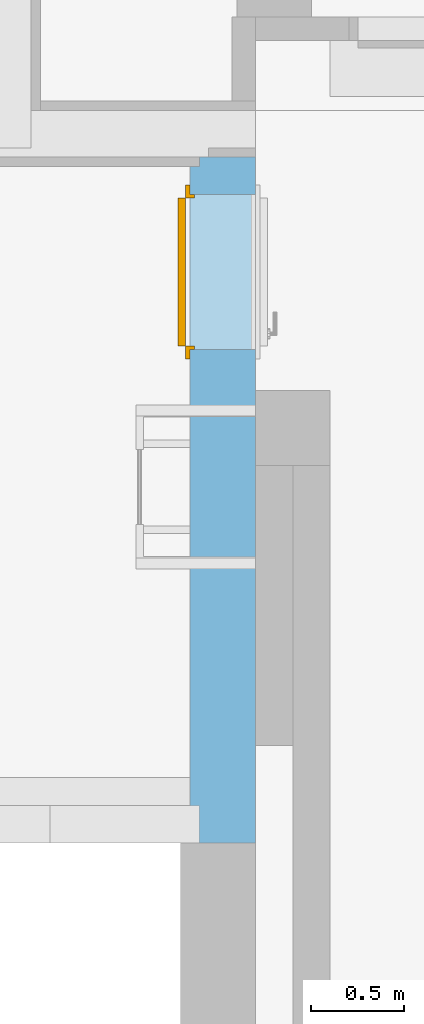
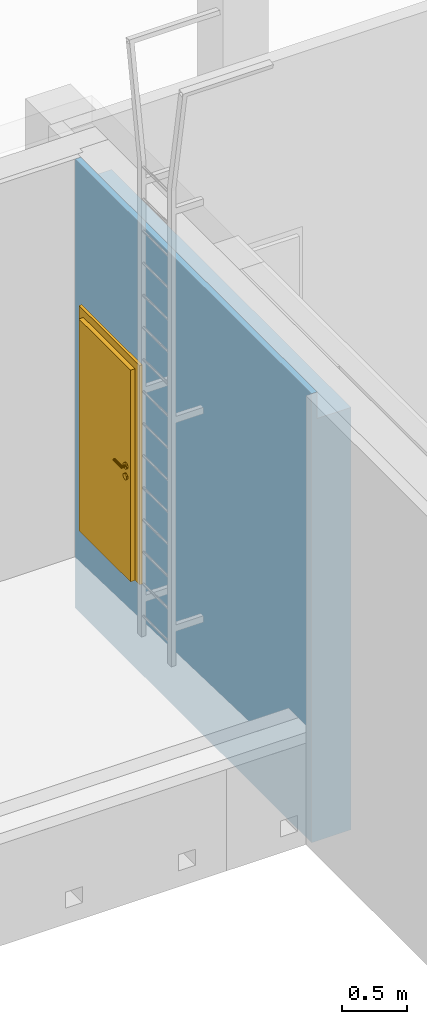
# One storey, part 13 of 17: 1 door, 1 opening, plus 1 element that does not belong to this part.
"""IFC4 building model written with IfcOpenShell, lengths in metres."""

from ifc_helpers import new_model, entity, si_unit, converted_unit, derived_unit, frame, origin, origin_with_axes, place, context, subcontext, project, spatial, polyline, outline, extrude, clip, bounded_halfspace, closed_shell, open_shell, surface_model, source, transform, mapped, material, layer, layer_set, layer_usage, type_object, element, fill, save


model = new_model("IFC4")

# Units and contexts
model_context = context("Model", 3, precision=1e-05, world=origin())
body_context = subcontext(model_context, "Body", "Model", "MODEL_VIEW")
ifc_project = project(units=[si_unit("LENGTHUNIT", "METRE"), si_unit("AREAUNIT", "SQUARE_METRE"), si_unit("VOLUMEUNIT", "CUBIC_METRE"), si_unit("MASSUNIT", "GRAM", prefix="KILO"), converted_unit("PLANEANGLEUNIT", "DEGREE", entity("IfcPlaneAngleMeasure", 0.0174532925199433), si_unit("PLANEANGLEUNIT", "RADIAN"), dimensions=[0, 0, 0, 0, 0, 0, 0]), derived_unit("THERMALTRANSMITTANCEUNIT", [(si_unit("POWERUNIT", "WATT"), 1), (si_unit("THERMODYNAMICTEMPERATUREUNIT", "KELVIN"), -1), (si_unit("LENGTHUNIT", "METRE"), -2)]), derived_unit("VOLUMETRICFLOWRATEUNIT", [(si_unit("LENGTHUNIT", "METRE"), 3), (converted_unit("TIMEUNIT", "hour", entity("IfcTimeMeasure", 3600.0), si_unit("TIMEUNIT", "SECOND"), dimensions=[0, 0, 1, 0, 0, 0, 0]), -1), (si_unit("LENGTHUNIT", "METRE"), -1)])], contexts=[model_context])

# Site, building, storey
site_placement = place(None, origin())
site = spatial("IfcSite", under=ifc_project, at=site_placement, Name="3. ASŘ", CompositionType="ELEMENT")
building_placement = place(site_placement, origin())
building = spatial("IfcBuilding", under=site, at=building_placement, Name="Pavilon C", CompositionType="ELEMENT")
storey_placement = place(building_placement, frame((0.0, 0.0, 13.8)))
storey = spatial("IfcBuildingStorey", under=building, at=storey_placement, Name="Půdorys 5.NP", CompositionType="ELEMENT", Elevation=13.8)

# Wall, opening, door
ifc_material_1 = material(Name="EPS")
ifc_layer_1 = layer(ifc_material_1, 0.05)
ifc_material_2 = material(Name="PLYNOSILIKÁT")
ifc_layer_2 = layer(ifc_material_2, 0.3)
ifc_layer_set = layer_set([ifc_layer_1, ifc_layer_2])
ifc_layer_usage = layer_usage(ifc_layer_set, "AXIS2", "POSITIVE", -0.05)
wall_placement = place(storey_placement, frame((30.3, 2.59999999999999, -0.1), z_axis=(0.0, 0.0, 1.0), x_axis=(0.0, -1.0, 0.0)))
wall = element("IfcWall", 1, at=wall_placement, inside=storey, material=ifc_layer_usage, Name="PLYNOSILIKÁT", context=body_context, shape_type="Clipping", body=[
    clip(extrude(outline(polyline([(-3.67, 0.35), (-3.67, 0.05), (-3.62, 0.05), (-3.62, 0.0), (0.0, 0.0), (0.0, 0.35), (-3.67, 0.35)])), frame((3.62, 0.0, 0.0), z_axis=(0.0, 0.0, 1.0), x_axis=(1.0, 0.0, 0.0)), (0.0, 0.0, 1.0), 4.2), bounded_halfspace(frame((1.428, 0.170000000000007, 3.95), z_axis=(0.0, 0.0, -1.0), x_axis=(1.0, 0.0, 0.0)), True, origin_with_axes(), polyline([(0.0, 0.05), (3.62, 0.05), (3.62, 0.350000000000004), (-0.05, 0.350000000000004), (-0.05, 0.0500000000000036), (0.0, 0.05)]))),
])
opening_placement = place(wall_placement, frame((0.150000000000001, 0.0, 0.85), z_axis=(0.0, 1.0, 0.0), x_axis=(0.0, 0.0, 1.0)))
opening = element("IfcOpeningElement", 2, at=opening_placement, cuts=wall, Name="Dveřní otvor", ObjectType="Opening", context=body_context, shape_type="SweptSolid", body=[
    extrude(outline(polyline([(0.0, 0.83), (2.0, 0.83), (2.0, 0.0), (0.0, 0.0), (0.0, 0.83)])), origin_with_axes(), (0.0, 0.0, 1.0), 0.05),
    extrude(outline(polyline([(0.0, 0.83), (2.0, 0.83), (2.0, 0.0), (0.0, 0.0), (0.0, 0.83)])), frame((0.0, 0.0, 0.05), z_axis=(0.0, 0.0, 1.0), x_axis=(1.0, 0.0, 0.0)), (0.0, 0.0, 1.0), 0.3),
])
door_type = type_object("IfcDoorType", Name="D101", OperationType="NOTDEFINED", ParameterTakesPrecedence=False, PredefinedType="DOOR")
shared_shape = source(origin_with_axes(), body_context, "Body", "SurfaceModel", [
    surface_model("IfcShellBasedSurfaceModel", [(0.05, 0.0500000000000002, 2.0), (0.05, 0.05, -6.12323399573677e-18), (0.07, 0.05, -6.12323399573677e-18), (0.07, 0.0500000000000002, 2.0), (0.05, -3.5527136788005e-18, 0.0), (0.05, 2.38031816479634e-16, 2.0), (0.07, 2.38031816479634e-16, 2.0), (0.07, -3.5527136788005e-18, 0.0)], [closed_shell([[[0, 1, 2, 3]], [[4, 5, 6, 7]], [[1, 0, 5, 4]], [[2, 1, 4, 7]], [[3, 2, 7, 6]], [[0, 3, 6, 5]]], orient=[[False], [False], [False], [False], [False], [False]])]),
    surface_model("IfcShellBasedSurfaceModel", [(0.05, 0.0500000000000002, 2.05), (0.0, 0.0500000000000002, 2.05), (0.0, 0.05, -6.12323399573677e-18), (0.05, 0.05, -6.12323399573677e-18), (0.05, 0.025, -3.06161699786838e-18), (0.0, 0.025, -3.06161699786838e-18), (0.0, 0.0250000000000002, 2.05), (0.05, 0.0250000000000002, 2.05)], [closed_shell([[[0, 1, 2, 3]], [[4, 5, 6, 7]], [[3, 4, 7, 0]], [[2, 5, 4, 3]], [[1, 6, 5, 2]], [[0, 7, 6, 1]]], orient=[[False], [False], [False], [False], [False], [False]])]),
    surface_model("IfcShellBasedSurfaceModel", [(0.86, 0.0500000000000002, 2.0), (0.86, 0.05, -6.12323399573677e-18), (0.88, 0.05, -6.12323399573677e-18), (0.88, 0.0500000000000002, 2.0), (0.86, -3.5527136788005e-18, 0.0), (0.86, 2.38031816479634e-16, 2.0), (0.88, 2.38031816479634e-16, 2.0), (0.88, -3.5527136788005e-18, 0.0)], [closed_shell([[[0, 1, 2, 3]], [[4, 5, 6, 7]], [[1, 0, 5, 4]], [[2, 1, 4, 7]], [[3, 2, 7, 6]], [[0, 3, 6, 5]]], orient=[[False], [False], [False], [False], [False], [False]])]),
    surface_model("IfcShellBasedSurfaceModel", [(0.88, 0.0500000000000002, 2.05), (0.88, 0.05, -6.12323399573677e-18), (0.93, 0.05, -6.12323399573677e-18), (0.93, 0.0500000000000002, 2.05), (0.88, 0.025, -3.06161699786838e-18), (0.88, 0.0250000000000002, 2.05), (0.93, 0.0250000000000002, 2.05), (0.93, 0.025, -3.06161699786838e-18)], [closed_shell([[[0, 1, 2, 3]], [[4, 5, 6, 7]], [[1, 0, 5, 4]], [[2, 1, 4, 7]], [[3, 2, 7, 6]], [[0, 3, 6, 5]]], orient=[[False], [False], [False], [False], [False], [False]])]),
    surface_model("IfcShellBasedSurfaceModel", [(0.07, 0.0500000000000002, 2.0), (0.07, 0.0500000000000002, 1.98), (0.86, 0.0500000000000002, 1.98), (0.86, 0.0500000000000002, 2.0), (0.07, 2.38031816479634e-16, 1.98), (0.07, 2.38031816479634e-16, 2.0), (0.86, 2.38031816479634e-16, 2.0), (0.86, 2.38031816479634e-16, 1.98)], [closed_shell([[[0, 1, 2, 3]], [[4, 5, 6, 7]], [[1, 0, 5, 4]], [[2, 1, 4, 7]], [[3, 2, 7, 6]], [[0, 3, 6, 5]]], orient=[[False], [False], [False], [False], [False], [False]])]),
    surface_model("IfcShellBasedSurfaceModel", [(0.05, 0.0500000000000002, 2.05), (0.05, 0.0500000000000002, 2.0), (0.88, 0.0500000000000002, 2.0), (0.88, 0.0500000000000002, 2.05), (0.05, 0.0250000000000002, 2.0), (0.05, 0.0250000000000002, 2.05), (0.88, 0.0250000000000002, 2.05), (0.88, 0.0250000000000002, 2.0)], [closed_shell([[[0, 1, 2, 3]], [[4, 5, 6, 7]], [[1, 0, 5, 4]], [[2, 1, 4, 7]], [[3, 2, 7, 6]], [[0, 3, 6, 5]]], orient=[[False], [False], [False], [False], [False], [False]])]),
    surface_model("IfcShellBasedSurfaceModel", [(0.07, 0.0900000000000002, 1.98), (0.07, 0.09, -1.10218211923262e-17), (0.86, 0.09, -1.10218211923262e-17), (0.86, 0.0900000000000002, 1.98), (0.07, 0.05, -6.12323399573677e-18), (0.07, 0.0500000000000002, 1.98), (0.86, 0.0500000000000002, 1.98), (0.86, 0.05, -6.12323399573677e-18)], [closed_shell([[[0, 1, 2, 3]], [[4, 5, 6, 7]], [[1, 0, 5, 4]], [[2, 1, 4, 7]], [[3, 2, 7, 6]], [[0, 3, 6, 5]]], orient=[[False], [False], [False], [False], [False], [False]])]),
    surface_model("IfcShellBasedSurfaceModel", [(0.818815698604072, 0.0500000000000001, 0.93625), (0.8225, 0.0500000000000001, 0.95), (0.818815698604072, 0.0500000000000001, 0.96375), (0.80875, 0.0500000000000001, 0.973815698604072), (0.795, 0.0500000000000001, 0.9775), (0.78125, 0.0500000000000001, 0.973815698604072), (0.771184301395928, 0.0500000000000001, 0.96375), (0.7675, 0.0500000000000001, 0.95), (0.771184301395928, 0.0500000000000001, 0.93625), (0.78125, 0.0500000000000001, 0.926184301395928), (0.795, 0.0500000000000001, 0.9225), (0.80875, 0.0500000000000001, 0.926184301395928), (0.8225, 0.0375000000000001, 0.95), (0.818815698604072, 0.0375000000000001, 0.93625), (0.80875, 0.0375000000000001, 0.926184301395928), (0.795, 0.0375000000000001, 0.9225), (0.78125, 0.0375000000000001, 0.926184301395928), (0.771184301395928, 0.0375000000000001, 0.93625), (0.7675, 0.0375000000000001, 0.95), (0.771184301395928, 0.0375000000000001, 0.96375), (0.78125, 0.0375000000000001, 0.973815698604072), (0.795, 0.0375000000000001, 0.9775), (0.80875, 0.0375000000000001, 0.973815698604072), (0.818815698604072, 0.0375000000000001, 0.96375)], [closed_shell([[[0, 1, 2, 3, 4, 5, 6, 7, 8, 9, 10, 11]], [[12, 13, 14, 15, 16, 17, 18, 19, 20, 21, 22, 23]], [[1, 0, 13, 12]], [[2, 1, 12, 23]], [[3, 2, 23, 22]], [[4, 3, 22, 21]], [[5, 4, 21, 20]], [[6, 5, 20, 19]], [[7, 6, 19, 18]], [[8, 7, 18, 17]], [[9, 8, 17, 16]], [[10, 9, 16, 15]], [[11, 10, 15, 14]], [[0, 11, 14, 13]]], orient=[[False], [False], [False], [False], [False], [False], [False], [False], [False], [False], [False], [False], [False], [False]])]),
    surface_model("IfcShellBasedSurfaceModel", [(0.818815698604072, 0.0500000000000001, 1.03625), (0.8225, 0.0500000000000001, 1.05), (0.818815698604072, 0.0500000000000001, 1.06375), (0.80875, 0.0500000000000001, 1.07381569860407), (0.795, 0.0500000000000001, 1.0775), (0.78125, 0.0500000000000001, 1.07381569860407), (0.771184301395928, 0.0500000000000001, 1.06375), (0.7675, 0.0500000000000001, 1.05), (0.771184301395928, 0.0500000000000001, 1.03625), (0.78125, 0.0500000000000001, 1.02618430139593), (0.795, 0.0500000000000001, 1.0225), (0.80875, 0.0500000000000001, 1.02618430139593), (0.8225, 0.0375000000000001, 1.05), (0.818815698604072, 0.0375000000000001, 1.03625), (0.80875, 0.0375000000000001, 1.02618430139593), (0.795, 0.0375000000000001, 1.0225), (0.78125, 0.0375000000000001, 1.02618430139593), (0.771184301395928, 0.0375000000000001, 1.03625), (0.7675, 0.0375000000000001, 1.05), (0.771184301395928, 0.0375000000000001, 1.06375), (0.78125, 0.0375000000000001, 1.07381569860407), (0.795, 0.0375000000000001, 1.0775), (0.80875, 0.0375000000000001, 1.07381569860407), (0.818815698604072, 0.0375000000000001, 1.06375)], [closed_shell([[[0, 1, 2, 3, 4, 5, 6, 7, 8, 9, 10, 11]], [[12, 13, 14, 15, 16, 17, 18, 19, 20, 21, 22, 23]], [[1, 0, 13, 12]], [[2, 1, 12, 23]], [[3, 2, 23, 22]], [[4, 3, 22, 21]], [[5, 4, 21, 20]], [[6, 5, 20, 19]], [[7, 6, 19, 18]], [[8, 7, 18, 17]], [[9, 8, 17, 16]], [[10, 9, 16, 15]], [[11, 10, 15, 14]], [[0, 11, 14, 13]]], orient=[[False], [False], [False], [False], [False], [False], [False], [False], [False], [False], [False], [False], [False], [False]])]),
    surface_model("IfcShellBasedSurfaceModel", [(0.795, 0.0500000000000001, 1.06), (0.79, 0.0500000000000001, 1.05866025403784), (0.786339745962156, 0.0500000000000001, 1.055), (0.785, 0.0500000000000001, 1.05), (0.786339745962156, 0.0500000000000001, 1.045), (0.79, 0.0500000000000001, 1.04133974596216), (0.795, 0.0500000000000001, 1.04), (0.8, 0.0500000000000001, 1.04133974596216), (0.803660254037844, 0.0500000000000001, 1.045), (0.805, 0.0500000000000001, 1.05), (0.803660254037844, 0.0500000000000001, 1.055), (0.8, 0.0500000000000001, 1.05866025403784), (0.8, 0.00500000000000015, 1.05866025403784), (0.795, 0.0100000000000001, 1.06), (0.803660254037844, 0.00133974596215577, 1.055), (0.805, 1.52766688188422e-16, 1.05), (0.803660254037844, 0.00133974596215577, 1.045), (0.8, 0.00500000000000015, 1.04133974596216), (0.795, 0.0100000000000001, 1.04), (0.79, 0.0150000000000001, 1.04133974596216), (0.786339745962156, 0.0186602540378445, 1.045), (0.785, 0.0200000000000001, 1.05), (0.786339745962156, 0.0186602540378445, 1.055), (0.79, 0.0150000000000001, 1.05866025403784), (0.68, 0.00500000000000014, 1.05866025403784), (0.68, 0.0100000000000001, 1.06), (0.68, 0.00133974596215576, 1.055), (0.68, 1.3855583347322e-16, 1.05), (0.68, 0.00133974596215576, 1.045), (0.68, 0.00500000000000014, 1.04133974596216), (0.68, 0.0100000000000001, 1.04), (0.68, 0.0150000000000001, 1.04133974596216), (0.68, 0.0186602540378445, 1.045), (0.68, 0.0200000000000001, 1.05), (0.68, 0.0186602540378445, 1.055), (0.68, 0.0150000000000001, 1.05866025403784)], [open_shell([[[0, 1, 2, 3, 4, 5, 6, 7, 8, 9, 10, 11]], [[0, 11, 12, 13]], [[11, 10, 14, 12]], [[10, 9, 15, 14]], [[9, 8, 16, 15]], [[8, 7, 17, 16]], [[7, 6, 18, 17]], [[6, 5, 19, 18]], [[5, 4, 20, 19]], [[4, 3, 21, 20]], [[3, 2, 22, 21]], [[2, 1, 23, 22]], [[1, 0, 13, 23]], [[13, 12, 24, 25]], [[12, 14, 26, 24]], [[14, 15, 27, 26]], [[15, 16, 28, 27]], [[16, 17, 29, 28]], [[17, 18, 30, 29]], [[18, 19, 31, 30]], [[19, 20, 32, 31]], [[20, 21, 33, 32]], [[21, 22, 34, 33]], [[22, 23, 35, 34]], [[23, 13, 25, 35]]], orient=[[False], [False], [False], [False], [False], [False], [False], [False], [False], [False], [False], [False], [False], [False], [False], [False], [False], [False], [False], [False], [False], [False], [False], [False], [False]])]),
    surface_model("IfcShellBasedSurfaceModel", [(0.818815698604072, 0.0900000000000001, 0.93625), (0.80875, 0.0900000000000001, 0.926184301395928), (0.795, 0.0900000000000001, 0.9225), (0.78125, 0.0900000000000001, 0.926184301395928), (0.771184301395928, 0.0900000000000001, 0.93625), (0.7675, 0.0900000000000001, 0.95), (0.771184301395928, 0.0900000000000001, 0.96375), (0.78125, 0.0900000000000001, 0.973815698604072), (0.795, 0.0900000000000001, 0.9775), (0.80875, 0.0900000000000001, 0.973815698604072), (0.818815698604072, 0.0900000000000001, 0.96375), (0.8225, 0.0900000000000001, 0.95), (0.8225, 0.1025, 0.95), (0.818815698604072, 0.1025, 0.96375), (0.80875, 0.1025, 0.973815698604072), (0.795, 0.1025, 0.9775), (0.78125, 0.1025, 0.973815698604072), (0.771184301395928, 0.1025, 0.96375), (0.7675, 0.1025, 0.95), (0.771184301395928, 0.1025, 0.93625), (0.78125, 0.1025, 0.926184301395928), (0.795, 0.1025, 0.9225), (0.80875, 0.1025, 0.926184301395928), (0.818815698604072, 0.1025, 0.93625)], [closed_shell([[[0, 1, 2, 3, 4, 5, 6, 7, 8, 9, 10, 11]], [[12, 13, 14, 15, 16, 17, 18, 19, 20, 21, 22, 23]], [[11, 12, 23, 0]], [[10, 13, 12, 11]], [[9, 14, 13, 10]], [[8, 15, 14, 9]], [[7, 16, 15, 8]], [[6, 17, 16, 7]], [[5, 18, 17, 6]], [[4, 19, 18, 5]], [[3, 20, 19, 4]], [[2, 21, 20, 3]], [[1, 22, 21, 2]], [[0, 23, 22, 1]]], orient=[[False], [False], [False], [False], [False], [False], [False], [False], [False], [False], [False], [False], [False], [False]])]),
    surface_model("IfcShellBasedSurfaceModel", [(0.818815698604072, 0.0900000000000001, 1.03625), (0.80875, 0.0900000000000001, 1.02618430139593), (0.795, 0.0900000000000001, 1.0225), (0.78125, 0.0900000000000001, 1.02618430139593), (0.771184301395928, 0.0900000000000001, 1.03625), (0.7675, 0.0900000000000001, 1.05), (0.771184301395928, 0.0900000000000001, 1.06375), (0.78125, 0.0900000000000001, 1.07381569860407), (0.795, 0.0900000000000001, 1.0775), (0.80875, 0.0900000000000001, 1.07381569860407), (0.818815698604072, 0.0900000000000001, 1.06375), (0.8225, 0.0900000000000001, 1.05), (0.8225, 0.1025, 1.05), (0.818815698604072, 0.1025, 1.06375), (0.80875, 0.1025, 1.07381569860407), (0.795, 0.1025, 1.0775), (0.78125, 0.1025, 1.07381569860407), (0.771184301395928, 0.1025, 1.06375), (0.7675, 0.1025, 1.05), (0.771184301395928, 0.1025, 1.03625), (0.78125, 0.1025, 1.02618430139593), (0.795, 0.1025, 1.0225), (0.80875, 0.1025, 1.02618430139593), (0.818815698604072, 0.1025, 1.03625)], [closed_shell([[[0, 1, 2, 3, 4, 5, 6, 7, 8, 9, 10, 11]], [[12, 13, 14, 15, 16, 17, 18, 19, 20, 21, 22, 23]], [[11, 12, 23, 0]], [[10, 13, 12, 11]], [[9, 14, 13, 10]], [[8, 15, 14, 9]], [[7, 16, 15, 8]], [[6, 17, 16, 7]], [[5, 18, 17, 6]], [[4, 19, 18, 5]], [[3, 20, 19, 4]], [[2, 21, 20, 3]], [[1, 22, 21, 2]], [[0, 23, 22, 1]]], orient=[[False], [False], [False], [False], [False], [False], [False], [False], [False], [False], [False], [False], [False], [False]])]),
    surface_model("IfcShellBasedSurfaceModel", [(0.795, 0.0900000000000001, 1.06), (0.8, 0.0900000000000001, 1.05866025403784), (0.803660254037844, 0.0900000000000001, 1.055), (0.805, 0.0900000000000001, 1.05), (0.803660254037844, 0.0900000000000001, 1.045), (0.8, 0.0900000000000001, 1.04133974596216), (0.795, 0.0900000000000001, 1.04), (0.79, 0.0900000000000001, 1.04133974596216), (0.786339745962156, 0.0900000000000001, 1.045), (0.785, 0.0900000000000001, 1.05), (0.786339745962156, 0.0900000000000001, 1.055), (0.79, 0.0900000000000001, 1.05866025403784), (0.795, 0.13, 1.06), (0.8, 0.135, 1.05866025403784), (0.803660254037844, 0.138660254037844, 1.055), (0.805, 0.14, 1.05), (0.803660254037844, 0.138660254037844, 1.045), (0.8, 0.135, 1.04133974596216), (0.795, 0.13, 1.04), (0.79, 0.125, 1.04133974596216), (0.786339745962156, 0.121339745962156, 1.045), (0.785, 0.12, 1.05), (0.786339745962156, 0.121339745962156, 1.055), (0.79, 0.125, 1.05866025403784), (0.68, 0.13, 1.06), (0.68, 0.135, 1.05866025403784), (0.68, 0.138660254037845, 1.055), (0.68, 0.14, 1.05), (0.68, 0.138660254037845, 1.045), (0.68, 0.135, 1.04133974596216), (0.68, 0.13, 1.04), (0.68, 0.125, 1.04133974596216), (0.68, 0.121339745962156, 1.045), (0.68, 0.12, 1.05), (0.68, 0.121339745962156, 1.055), (0.68, 0.125, 1.05866025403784)], [open_shell([[[0, 1, 2, 3, 4, 5, 6, 7, 8, 9, 10, 11]], [[0, 12, 13, 1]], [[1, 13, 14, 2]], [[2, 14, 15, 3]], [[3, 15, 16, 4]], [[4, 16, 17, 5]], [[5, 17, 18, 6]], [[6, 18, 19, 7]], [[7, 19, 20, 8]], [[8, 20, 21, 9]], [[9, 21, 22, 10]], [[10, 22, 23, 11]], [[11, 23, 12, 0]], [[12, 24, 25, 13]], [[13, 25, 26, 14]], [[14, 26, 27, 15]], [[15, 27, 28, 16]], [[16, 28, 29, 17]], [[17, 29, 30, 18]], [[18, 30, 31, 19]], [[19, 31, 32, 20]], [[20, 32, 33, 21]], [[21, 33, 34, 22]], [[22, 34, 35, 23]], [[23, 35, 24, 12]]], orient=[[False], [False], [False], [False], [False], [False], [False], [False], [False], [False], [False], [False], [False], [False], [False], [False], [False], [False], [False], [False], [False], [False], [False], [False], [False]])]),
])
door_placement = place(opening_placement, frame((0.0, -0.0499999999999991, 0.0249999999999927), z_axis=(1.0, 0.0, 0.0), x_axis=(0.0, 1.0, -1.22464679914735e-16)))
door = element("IfcDoor", 3, at=door_placement, inside=storey, type_object=door_type, Name="D101", OverallHeight=2.0, OverallWidth=0.83, context=body_context, shape_type="MappedRepresentation", body=[
    mapped(shared_shape, transform((0.0, 0.0, 0.0), x_axis=(1.0, 0.0, 0.0), y_axis=(0.0, -1.0, 0.0), z_axis=(0.0, 0.0, 1.0), scale=1.0)),
])
fill(opening, door)

save(model, "model.ifc")
